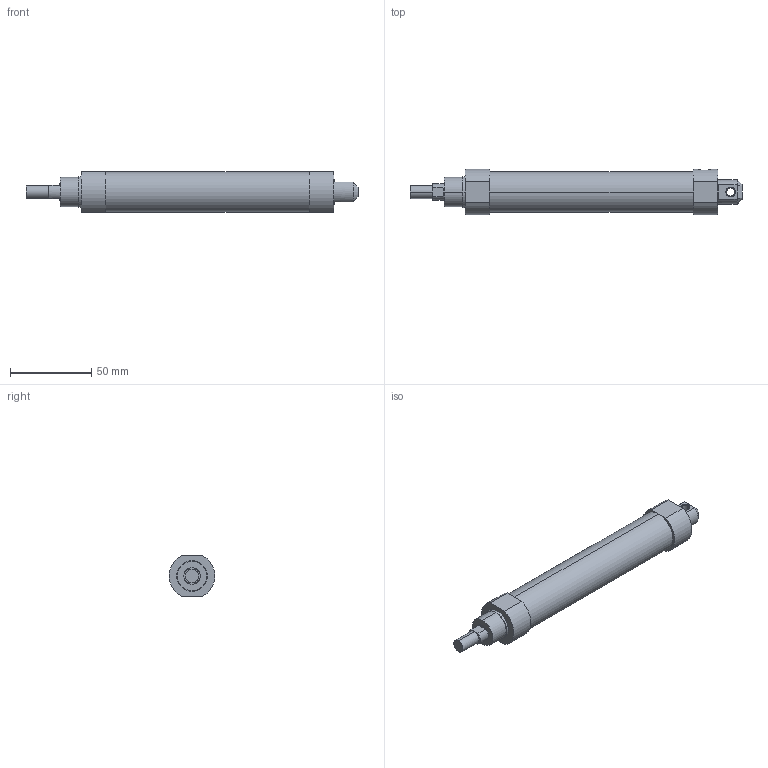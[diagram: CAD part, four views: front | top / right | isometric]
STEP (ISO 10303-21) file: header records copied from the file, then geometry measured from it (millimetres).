
FILE_DESCRIPTION (( 'STEP AP203' ), '1' );
FILE_NAME ('J#1-20-50-C.STEP', '2016-03-08T06:43:51', ( '' ), ( '' ), 'SwSTEP 2.0', 'SolidWorks 2014', '' );
FILE_SCHEMA (( 'CONFIG_CONTROL_DESIGN' ));
Length unit declared in the file: millimetre
Products named in the file (1): J#1-20-50-C
Bounding box: 204 x 27.95 x 25 mm (x, y, z)
Volume: 84822.2 mm3; surface area: 16209.1 mm2
Topology: 1 solids, 1 shells, 53 faces, 118 edges, 72 vertices
Faces by surface type: plane 27, cylinder 20, cone 6
Entity records: 1611 total; most frequent: CARTESIAN_POINT 322, DIRECTION 272, ORIENTED_EDGE 236, EDGE_CURVE 118, AXIS2_PLACEMENT_3D 106, VERTEX_POINT 72, EDGE_LOOP 60, VECTOR 60
